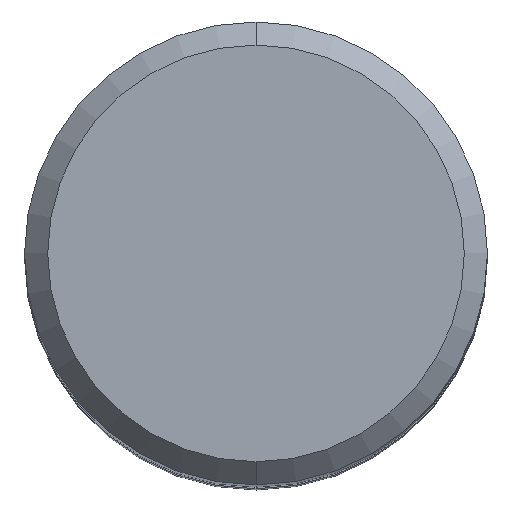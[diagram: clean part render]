
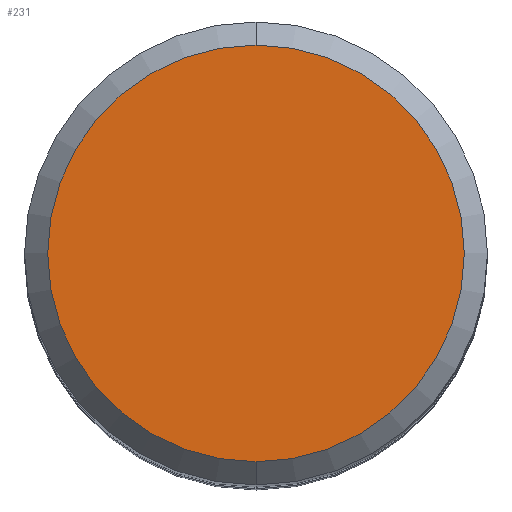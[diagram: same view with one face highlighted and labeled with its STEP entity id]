
A CAD part, top view. The second image highlights one B-rep face of the part: STEP entity #231.
In plain terms, the highlighted free-form (B-spline) face has degree [1, 1] with [2, 2] control points.
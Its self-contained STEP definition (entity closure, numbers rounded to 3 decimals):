
#38=CARTESIAN_POINT('',(0.,0.,0.));
#39=DIRECTION('',(0.,0.,1.));
#40=DIRECTION('',(0.,1.,0.));
#41=AXIS2_PLACEMENT_3D('',#38,#39,#40);
#43=CARTESIAN_POINT('',(0.,0.,0.));
#44=DIRECTION('',(0.,0.,-1.));
#45=DIRECTION('',(0.,1.,0.));
#46=AXIS2_PLACEMENT_3D('',#43,#44,#45);
#138=CARTESIAN_POINT('',(0.,9.,0.));
#139=VERTEX_POINT('',#138);
#140=CARTESIAN_POINT('',(0.,-9.,0.));
#141=VERTEX_POINT('',#140);
#222=CARTESIAN_POINT('',(9.361,9.36,0.));
#223=CARTESIAN_POINT('',(-9.361,9.36,0.));
#224=CARTESIAN_POINT('',(9.361,-9.36,0.));
#225=CARTESIAN_POINT('',(-9.361,-9.36,0.));
#226=B_SPLINE_SURFACE_WITH_KNOTS('',1,1,((#222,#223),(#224,#225)),.UNSPECIFIED.,
.F.,.F.,.F.,(2,2),(2,2),(-9.36,9.36),(-9.361,9.361),
.UNSPECIFIED.);
#227=ORIENTED_EDGE('',*,*,#207,.F.);
#228=ORIENTED_EDGE('',*,*,#175,.T.);
#229=EDGE_LOOP('',(#227,#228));
#230=FACE_OUTER_BOUND('',#229,.F.);
#42=CIRCLE('',#41,9.);
#47=CIRCLE('',#46,9.);
#175=EDGE_CURVE('',#139,#141,#47,.T.);
#207=EDGE_CURVE('',#139,#141,#42,.T.);
#231=ADVANCED_FACE('',(#230),#226,.F.);
